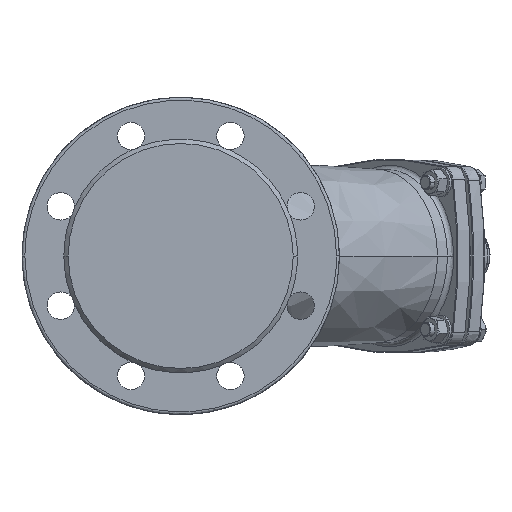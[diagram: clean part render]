
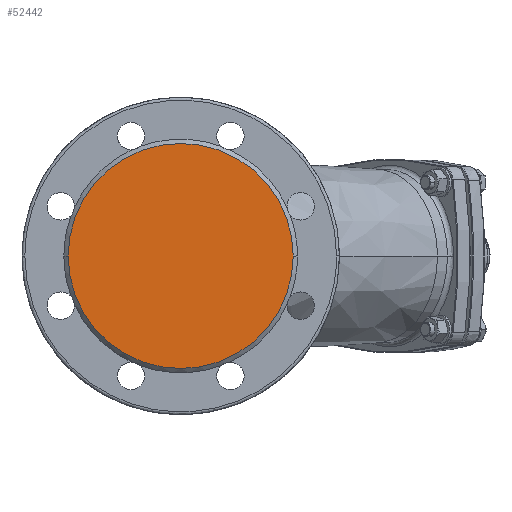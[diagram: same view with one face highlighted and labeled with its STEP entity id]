
A CAD part, left-side view. The second image highlights one B-rep face of the part: STEP entity #52442.
In plain terms, the highlighted planar face has unit normal (-1, 0, 0).
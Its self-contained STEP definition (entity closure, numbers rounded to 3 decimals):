
#3834 = EDGE_CURVE ( 'NONE', #42073, #9037, #23600, .T. ) ;
#5594 = FACE_OUTER_BOUND ( 'NONE', #49426, .T. ) ;
#9037 = VERTEX_POINT ( 'NONE', #43144 ) ;
#9721 = DIRECTION ( 'NONE',  ( 1., 0., 0. ) ) ;
#12404 = DIRECTION ( 'NONE',  ( 1., 0., 0. ) ) ;
#13364 = AXIS2_PLACEMENT_3D ( 'NONE', #37748, #12404, #36998 ) ;
#19947 = CARTESIAN_POINT ( 'NONE',  ( 0., 0., 0. ) ) ;
#21415 = AXIS2_PLACEMENT_3D ( 'NONE', #19947, #50136, #41242 ) ;
#23128 = ORIENTED_EDGE ( 'NONE', *, *, #26223, .F. ) ;
#23600 = CIRCLE ( 'NONE', #21415, 78. ) ;
#24970 = PLANE ( 'NONE',  #13364 ) ;
#26223 = EDGE_CURVE ( 'NONE', #9037, #42073, #39986, .T. ) ;
#30992 = DIRECTION ( 'NONE',  ( 0., 1., 0. ) ) ;
#31565 = ORIENTED_EDGE ( 'NONE', *, *, #3834, .F. ) ;
#35074 = CARTESIAN_POINT ( 'NONE',  ( 0., 0., 0. ) ) ;
#36998 = DIRECTION ( 'NONE',  ( 0., 0., -1. ) ) ;
#37748 = CARTESIAN_POINT ( 'NONE',  ( 0., 0., 0. ) ) ;
#39986 = CIRCLE ( 'NONE', #49873, 78. ) ;
#41242 = DIRECTION ( 'NONE',  ( 0., 1., 0. ) ) ;
#42073 = VERTEX_POINT ( 'NONE', #46948 ) ;
#43144 = CARTESIAN_POINT ( 'NONE',  ( 0., 78., 0. ) ) ;
#46948 = CARTESIAN_POINT ( 'NONE',  ( 0., -78., 0. ) ) ;
#49426 = EDGE_LOOP ( 'NONE', ( #23128, #31565 ) ) ;
#49873 = AXIS2_PLACEMENT_3D ( 'NONE', #35074, #9721, #30992 ) ;
#50136 = DIRECTION ( 'NONE',  ( 1., 0., 0. ) ) ;
#52442 = ADVANCED_FACE ( 'NONE', ( #5594 ), #24970, .F. ) ;
